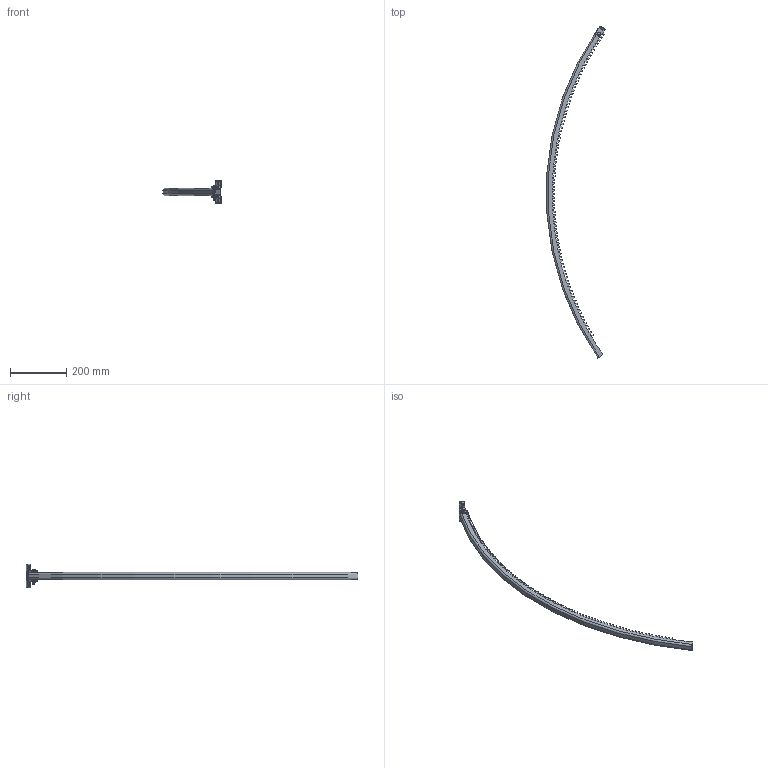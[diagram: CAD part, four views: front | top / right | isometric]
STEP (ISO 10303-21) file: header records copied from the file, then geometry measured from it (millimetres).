
FILE_DESCRIPTION (( 'STEP AP214' ), '1' );
FILE_NAME ('010185361_EZD_3D-Modell_DE_61555.0512.1265_10185361.STEP', '2018-12-11T14:47:28', ( '' ), ( '' ), 'SwSTEP 2.0', 'SolidWorks 2018', '' );
FILE_SCHEMA (( 'AUTOMOTIVE_DESIGN' ));
Length unit declared in the file: millimetre
Products named in the file (6): Mutter_10001793_Standard; 010185361_EZD_3D-Modell_DE_61555.0512.1265_10185361; Montageplatte_10148566_Standard; Schraube_10148565_ISO 4017 - M6 x 50-N; Montageplatte_10140229_Standard; Zahnstange_10146130_Standard
Assembly tree (5 placements, depth 3):
  010185361_EZD_3D-Modell_DE_61555.0512.1265_10185361
    Zahnstange_10146130_Standard
    Montageplatte_10148566_Standard
      Montageplatte_10140229_Standard
      Schraube_10148565_ISO 4017 - M6 x 50-N
      Mutter_10001793_Standard
Bounding box: 208.54 x 1185.07 x 85 mm (x, y, z)
Volume: 262860.8 mm3; surface area: 188478.9 mm2
Topology: 4 solids, 4 shells, 1021 faces, 3002 edges, 1990 vertices
Faces by surface type: plane 771, cylinder 220, cone 20, torus 10
Entity records: 34032 total; most frequent: CARTESIAN_POINT 6202, ORIENTED_EDGE 6004, DIRECTION 5514, EDGE_CURVE 3002, LINE 2478, VECTOR 2478, VERTEX_POINT 1990, AXIS2_PLACEMENT_3D 1518
